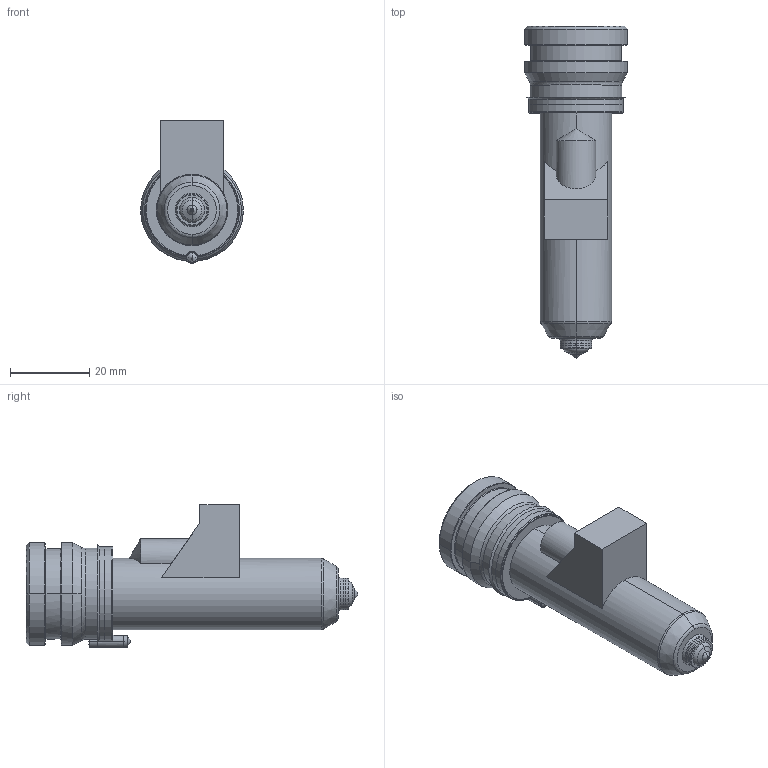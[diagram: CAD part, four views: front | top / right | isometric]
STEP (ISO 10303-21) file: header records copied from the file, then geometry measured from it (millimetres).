
FILE_DESCRIPTION((''),'2;1');
FILE_NAME('TH18066-M-1-PK-JG','2023-12-14T',('umhib'),('Thermoplay S.p.A.'),'PRO/ENGINEER BY PARAMETRIC TECHNOLOGY CORPORATION, 2017170','PRO/ENGINEER BY PARAMETRIC TECHNOLOGY CORPORATION, 2017170','');
FILE_SCHEMA(('CONFIG_CONTROL_DESIGN'));
Length unit declared in the file: millimetre
Products named in the file (1): TH18066-M-1-PK-JG
Bounding box: 26 x 84 x 36.1 mm (x, y, z)
Volume: 18845.6 mm3; surface area: 14679.3 mm2
Topology: 1 solids, 2 shells, 391 faces, 999 edges, 613 vertices
Faces by surface type: cylinder 149, plane 87, cone 62, torus 58, bspline 22, sphere 11, extrusion 2
Entity records: 16798 total; most frequent: CARTESIAN_POINT 5170, DIRECTION 2000, ORIENTED_EDGE 1972, EDGE_CURVE 988, AXIS2_PLACEMENT_3D 806, VERTEX_POINT 613, CIRCLE 438, EDGE_LOOP 414
